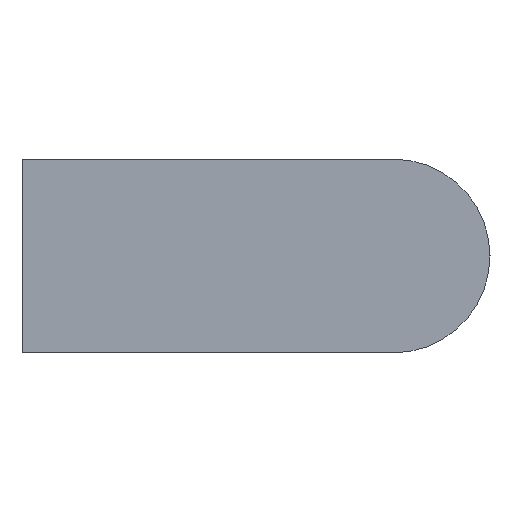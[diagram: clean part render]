
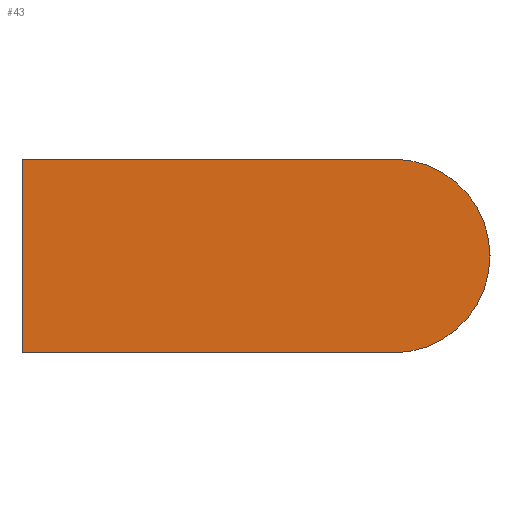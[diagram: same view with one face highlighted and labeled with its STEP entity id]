
A CAD part, left-side view. The second image highlights one B-rep face of the part: STEP entity #43.
In plain terms, the highlighted planar face has unit normal (-1, 0, 0).
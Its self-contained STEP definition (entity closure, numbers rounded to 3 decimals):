
#43 = ADVANCED_FACE( '', ( #95 ), #96, .F. );
#95 = FACE_OUTER_BOUND( '', #160, .T. );
#96 = PLANE( '', #161 );
#160 = EDGE_LOOP( '', ( #221, #222, #223, #224 ) );
#161 = AXIS2_PLACEMENT_3D( '', #225, #226, #227 );
#221 = ORIENTED_EDGE( '', *, *, #346, .F. );
#222 = ORIENTED_EDGE( '', *, *, #347, .F. );
#223 = ORIENTED_EDGE( '', *, *, #348, .F. );
#224 = ORIENTED_EDGE( '', *, *, #349, .F. );
#225 = CARTESIAN_POINT( '', ( -15., -28.04, 0. ) );
#226 = DIRECTION( '', ( 1., 0., 0. ) );
#227 = DIRECTION( '', ( 0., 0., -1. ) );
#346 = EDGE_CURVE( '', #394, #395, #396, .T. );
#347 = EDGE_CURVE( '', #397, #394, #398, .T. );
#348 = EDGE_CURVE( '', #399, #397, #400, .T. );
#349 = EDGE_CURVE( '', #395, #399, #401, .T. );
#394 = VERTEX_POINT( '', #463 );
#395 = VERTEX_POINT( '', #464 );
#396 = LINE( '', #465, #466 );
#397 = VERTEX_POINT( '', #467 );
#398 = LINE( '', #468, #469 );
#399 = VERTEX_POINT( '', #470 );
#400 = LINE( '', #471, #472 );
#401 = CIRCLE( '', #473, 7.32 );
#463 = CARTESIAN_POINT( '', ( -15., 0., 7.32 ) );
#464 = CARTESIAN_POINT( '', ( -15., -28.04, 7.32 ) );
#465 = CARTESIAN_POINT( '', ( -15., 0., 7.32 ) );
#466 = VECTOR( '', #551, 1000. );
#467 = CARTESIAN_POINT( '', ( -15., 0., -7.32 ) );
#468 = CARTESIAN_POINT( '', ( -15., 0., -7.32 ) );
#469 = VECTOR( '', #552, 1000. );
#470 = CARTESIAN_POINT( '', ( -15., -28.04, -7.32 ) );
#471 = CARTESIAN_POINT( '', ( -15., -28.04, -7.32 ) );
#472 = VECTOR( '', #553, 1000. );
#473 = AXIS2_PLACEMENT_3D( '', #554, #555, #556 );
#551 = DIRECTION( '', ( 0., -1., 0. ) );
#552 = DIRECTION( '', ( 0., 0., 1. ) );
#553 = DIRECTION( '', ( 0., 1., 0. ) );
#554 = CARTESIAN_POINT( '', ( -15., -28.04, 0. ) );
#555 = DIRECTION( '', ( 1., 0., 0. ) );
#556 = DIRECTION( '', ( 0., 0., -1. ) );
